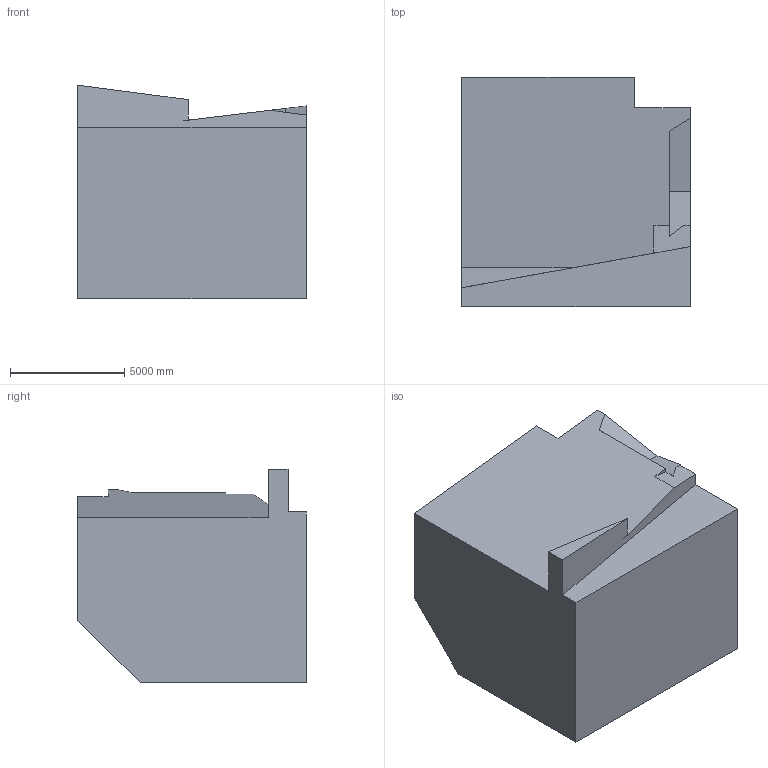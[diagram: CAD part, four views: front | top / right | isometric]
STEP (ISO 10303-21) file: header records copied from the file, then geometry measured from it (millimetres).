
FILE_DESCRIPTION (( 'STEP AP203' ), '1' );
FILE_NAME ('152.STEP', '2022-09-05T15:46:23', ( 'user' ), ( '' ), 'SwSTEP 2.0', 'SolidWorks 2021', '' );
FILE_SCHEMA (( 'CONFIG_CONTROL_DESIGN' ));
Length unit declared in the file: centimetre
Products named in the file (1): 152
Bounding box: 10000 x 10000 x 9334.32 mm (x, y, z)
Volume: 718795093025.5 mm3; surface area: 498226091.9 mm2
Topology: 1 solids, 1 shells, 19 faces, 51 edges, 34 vertices
Faces by surface type: plane 19
Entity records: 662 total; most frequent: CARTESIAN_POINT 105, ORIENTED_EDGE 102, DIRECTION 91, EDGE_CURVE 51, LINE 51, VECTOR 51, VERTEX_POINT 34, AXIS2_PLACEMENT_3D 20
